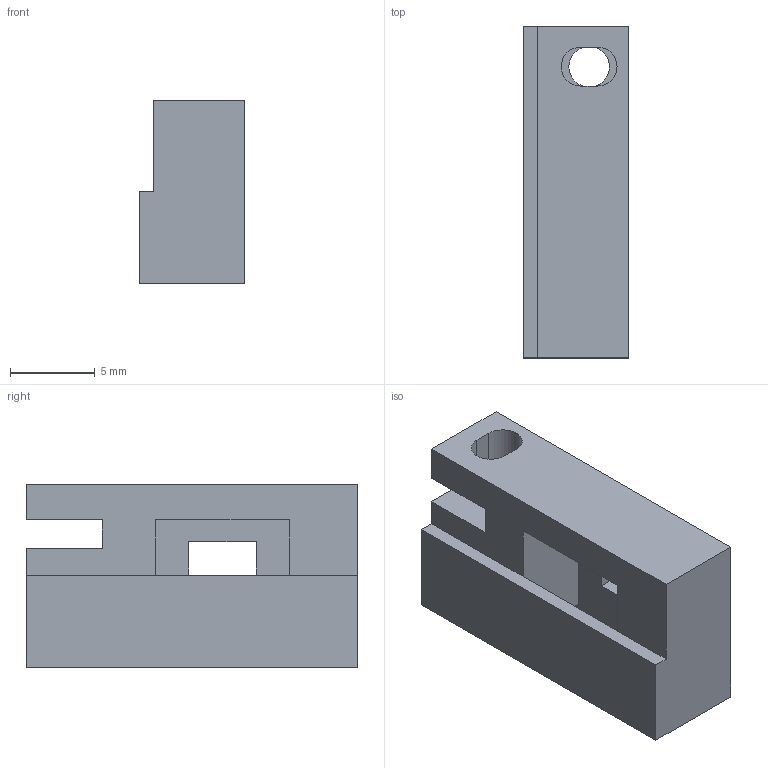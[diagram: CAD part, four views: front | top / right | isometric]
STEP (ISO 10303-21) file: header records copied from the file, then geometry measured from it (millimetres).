
FILE_DESCRIPTION(('Open CASCADE Model'),'2;1');
FILE_NAME('Open CASCADE Shape Model','2026-09-04T20:35:59',('Author'),( 'Open CASCADE'),'Open CASCADE STEP processor 7.7','Open CASCADE 7.7' ,'Unknown');
FILE_SCHEMA(('AUTOMOTIVE_DESIGN { 1 0 10303 214 1 1 1 1 }'));
Length unit declared in the file: millimetre
Products named in the file (1): Open CASCADE STEP translator 7.7 19
Bounding box: 6.25 x 19.6 x 10.85 mm (x, y, z)
Volume: 786.5 mm3; surface area: 1076.7 mm2
Topology: 1 solids, 1 shells, 38 faces, 103 edges, 68 vertices
Faces by surface type: plane 31, cylinder 7
Full cylindrical faces by diameter (mm): 2.4 x3
Entity records: 2506 total; most frequent: CARTESIAN_POINT 550, DIRECTION 317, LINE 207, VECTOR 207, ORIENTED_EDGE 206, PCURVE 206, DEFINITIONAL_REPRESENTATION 206, EDGE_CURVE 103
